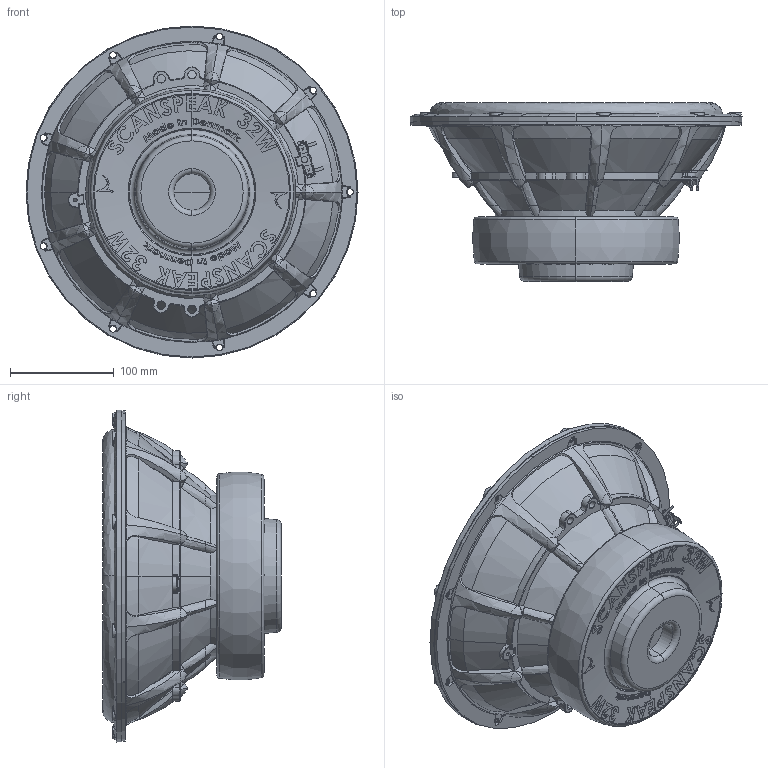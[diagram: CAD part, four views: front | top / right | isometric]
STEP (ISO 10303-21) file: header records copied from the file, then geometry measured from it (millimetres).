
FILE_DESCRIPTION (( 'STEP AP214' ), '1' );
FILE_NAME ('32W-8878T01.STEP', '2020-11-24T11:48:46', ( '' ), ( '' ), 'SwSTEP 2.0', 'SolidWorks 2019', '' );
FILE_SCHEMA (( 'AUTOMOTIVE_DESIGN' ));
Length unit declared in the file: millimetre
Products named in the file (1): 32W-8878T01
Bounding box: 319.88 x 172.27 x 319.88 mm (x, y, z)
Volume: 4865288.7 mm3; surface area: 360565.8 mm2
Topology: 1 solids, 2 shells, 2044 faces, 5536 edges, 3530 vertices
Faces by surface type: plane 633, bspline 586, cylinder 344, cone 285, torus 172, sphere 24
Entity records: 119732 total; most frequent: CARTESIAN_POINT 53589, ORIENTED_EDGE 10952, DIRECTION 6746, EDGE_CURVE 5476, VERTEX_POINT 3512, B_SPLINE_CURVE_WITH_KNOTS 2728, AXIS2_PLACEMENT_3D 2642, EDGE_LOOP 2162
